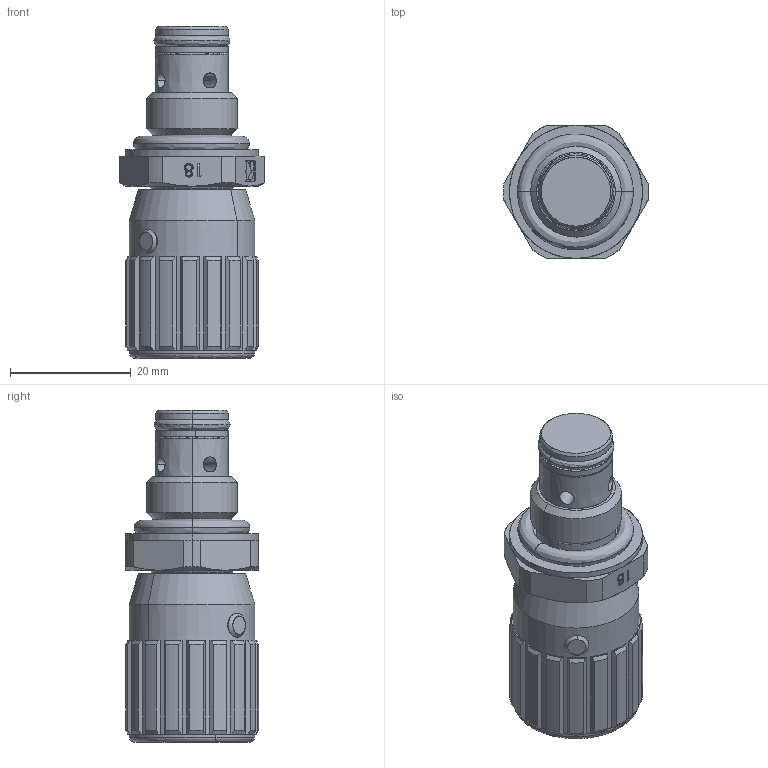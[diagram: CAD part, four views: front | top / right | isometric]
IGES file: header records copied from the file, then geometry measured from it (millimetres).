
Start section: SolidWorks IGES file using analytic representation for surfaces
Global section: file name: C:\Users\user\Desktop\2247_2-18.IGS; native system: SolidWorks 2014; preprocessor: SolidWorks 2014; author: user; date: 140611.141010; units: millimetre
Bounding box: 24 x 22 x 54.9 mm (x, y, z)
Surface area: 9507 mm2 (no closed solid volume)
Topology: 0 solids, 0 shells, 584 faces, 5561 edges, 5561 vertices
Faces by surface type: bspline 414, revolution 170
